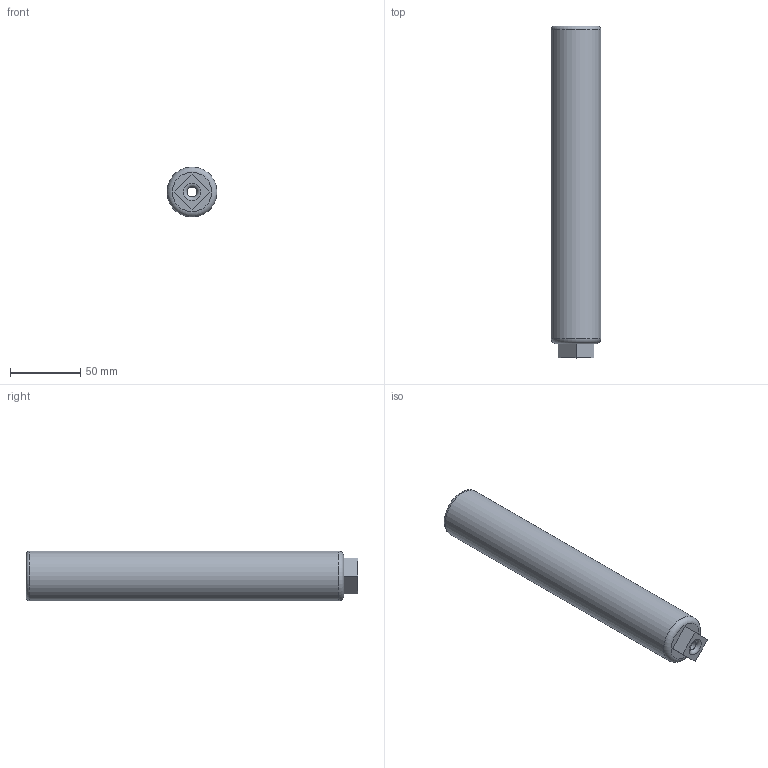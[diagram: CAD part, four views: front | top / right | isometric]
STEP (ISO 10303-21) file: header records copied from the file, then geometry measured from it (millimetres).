
FILE_DESCRIPTION(/* description */ (''),/* implementation_level */ '2;1');
FILE_NAME(/* name */ 'C:/Users/Owner/Desktop/liberator suppressed/STEP Files/22 Caliber versions/22 Cal Liberator Suppressor can 9.3 inch.step',/* time_stamp */ '2020-04-23T22:20:04-04:00',/* author */ (''),/* organization */ (''),/* preprocessor_version */ 'ST-DEVELOPER v18.1',/* originating_system */ 'Autodesk Translation Framework v9.2.0.1227',/* authorisation */ '');
FILE_SCHEMA (('AUTOMOTIVE_DESIGN { 1 0 10303 214 3 1 1 }'));
Length unit declared in the file: inch
Products named in the file (1): 22 cal lib sup 9.3 inch
Bounding box: 35.56 x 236.22 x 35.56 mm (x, y, z)
Volume: 143214.7 mm3; surface area: 45342.1 mm2
Topology: 1 solids, 1 shells, 50 faces, 136 edges, 90 vertices
Faces by surface type: cylinder 34, plane 9, torus 5, bspline 2
Full cylindrical faces by diameter (mm): 7.112 x1, 22.288 x15, 25.4 x14, 35.56 x1
Entity records: 4574 total; most frequent: CARTESIAN_POINT 3360, ORIENTED_EDGE 272, DIRECTION 207, EDGE_CURVE 136, VERTEX_POINT 90, AXIS2_PLACEMENT_3D 81, B_SPLINE_CURVE_WITH_KNOTS 59, EDGE_LOOP 54
